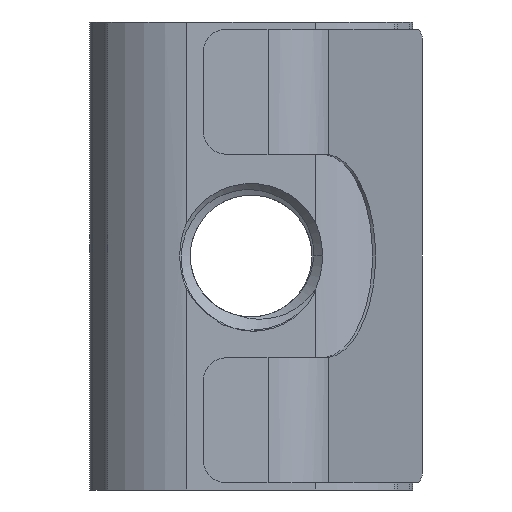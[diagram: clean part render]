
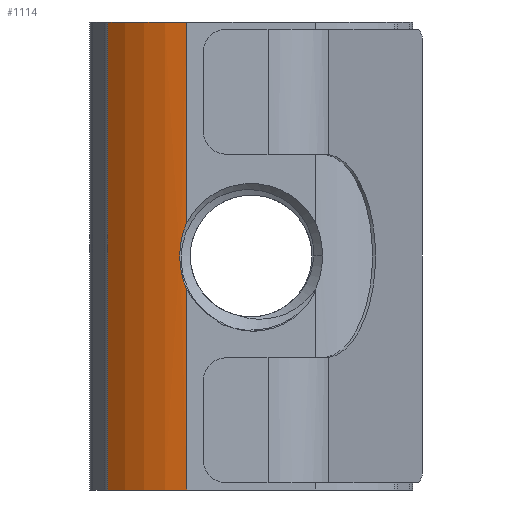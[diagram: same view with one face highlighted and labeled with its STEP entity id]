
A CAD part, front view. The second image highlights one B-rep face of the part: STEP entity #1114.
In plain terms, the highlighted cylindrical face has radius 5.6 mm (diameter 11.2 mm), a partial arc.
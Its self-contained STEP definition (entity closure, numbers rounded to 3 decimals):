
#210 = CARTESIAN_POINT ( 'NONE',  ( -3.054, -5.254, 0. ) ) ;
#289 = LINE ( 'NONE', #4368, #4391 ) ;
#322 = CARTESIAN_POINT ( 'NONE',  ( -2.853, -5.287, 1.206 ) ) ;
#373 = CIRCLE ( 'NONE', #3636, 5.6 ) ;
#426 = CARTESIAN_POINT ( 'NONE',  ( -2.75, -5.3, 10. ) ) ;
#450 = DIRECTION ( 'NONE',  ( 0., 0., 1. ) ) ;
#472 = EDGE_CURVE ( 'NONE', #2305, #2274, #1750, .T. ) ;
#719 = CARTESIAN_POINT ( 'NONE',  ( -6.124, -3.59, -10. ) ) ;
#722 = CARTESIAN_POINT ( 'NONE',  ( -3.054, -5.254, 0. ) ) ;
#757 = DIRECTION ( 'NONE',  ( -1., 0., 0. ) ) ;
#811 = CARTESIAN_POINT ( 'NONE',  ( -3.054, -5.254, 0.245 ) ) ;
#851 = LINE ( 'NONE', #426, #4641 ) ;
#1000 = DIRECTION ( 'NONE',  ( 0., 0., -1. ) ) ;
#1076 = LINE ( 'NONE', #3715, #1983 ) ;
#1114 = ADVANCED_FACE ( 'NONE', ( #1765 ), #3744, .T. ) ;
#1146 = EDGE_LOOP ( 'NONE', ( #2072, #4940, #3282, #1570, #2394, #1775, #3703 ) ) ;
#1154 = CARTESIAN_POINT ( 'NONE',  ( -2.75, -5.3, -1.431 ) ) ;
#1165 = CARTESIAN_POINT ( 'NONE',  ( -3.029, -5.258, 0.488 ) ) ;
#1185 = EDGE_CURVE ( 'NONE', #3777, #3202, #289, .T. ) ;
#1339 = B_SPLINE_CURVE_WITH_KNOTS ( 'NONE', 3,
 ( #1154, #5062, #3803, #2892, #2951, #4639 ),
 .UNSPECIFIED., .F., .F.,
 ( 4, 2, 4 ),
 ( 0., 0.001, 0.001 ),
 .UNSPECIFIED. ) ;
#1366 = CARTESIAN_POINT ( 'NONE',  ( -6.124, -3.59, 10. ) ) ;
#1380 = CARTESIAN_POINT ( 'NONE',  ( -2.75, -5.3, 1.431 ) ) ;
#1570 = ORIENTED_EDGE ( 'NONE', *, *, #1883, .F. ) ;
#1750 = B_SPLINE_CURVE_WITH_KNOTS ( 'NONE', 3,
 ( #722, #811, #1165, #5102, #322, #5037 ),
 .UNSPECIFIED., .F., .F.,
 ( 4, 2, 4 ),
 ( 0.001, 0.002, 0.003 ),
 .UNSPECIFIED. ) ;
#1765 = FACE_OUTER_BOUND ( 'NONE', #1146, .T. ) ;
#1775 = ORIENTED_EDGE ( 'NONE', *, *, #4577, .T. ) ;
#1834 = DIRECTION ( 'NONE',  ( 0., 0., 1. ) ) ;
#1883 = EDGE_CURVE ( 'NONE', #2430, #2274, #851, .T. ) ;
#1967 = CARTESIAN_POINT ( 'NONE',  ( -2.75, -5.3, 10. ) ) ;
#1983 = VECTOR ( 'NONE', #1000, 1000. ) ;
#2072 = ORIENTED_EDGE ( 'NONE', *, *, #1185, .F. ) ;
#2211 = DIRECTION ( 'NONE',  ( -1., 0., 0. ) ) ;
#2274 = VERTEX_POINT ( 'NONE', #1380 ) ;
#2305 = VERTEX_POINT ( 'NONE', #210 ) ;
#2394 = ORIENTED_EDGE ( 'NONE', *, *, #2590, .F. ) ;
#2430 = VERTEX_POINT ( 'NONE', #1967 ) ;
#2542 = CIRCLE ( 'NONE', #4431, 5.6 ) ;
#2553 = DIRECTION ( 'NONE',  ( 0., 0., -1. ) ) ;
#2588 = DIRECTION ( 'NONE',  ( 0., 0., -1. ) ) ;
#2590 = EDGE_CURVE ( 'NONE', #5049, #2430, #373, .T. ) ;
#2616 = DIRECTION ( 'NONE',  ( -1., 0., 0. ) ) ;
#2648 = DIRECTION ( 'NONE',  ( 0., 0., -1. ) ) ;
#2824 = EDGE_CURVE ( 'NONE', #3173, #3202, #2542, .T. ) ;
#2892 = CARTESIAN_POINT ( 'NONE',  ( -3.028, -5.258, -0.494 ) ) ;
#2951 = CARTESIAN_POINT ( 'NONE',  ( -3.054, -5.254, -0.245 ) ) ;
#3056 = CARTESIAN_POINT ( 'NONE',  ( -2.054, 0.257, -10. ) ) ;
#3173 = VERTEX_POINT ( 'NONE', #719 ) ;
#3202 = VERTEX_POINT ( 'NONE', #4068 ) ;
#3282 = ORIENTED_EDGE ( 'NONE', *, *, #472, .T. ) ;
#3320 = CARTESIAN_POINT ( 'NONE',  ( -2.054, 0.257, 10. ) ) ;
#3423 = CARTESIAN_POINT ( 'NONE',  ( -2.054, 0.257, 10. ) ) ;
#3636 = AXIS2_PLACEMENT_3D ( 'NONE', #3423, #450, #757 ) ;
#3703 = ORIENTED_EDGE ( 'NONE', *, *, #2824, .T. ) ;
#3715 = CARTESIAN_POINT ( 'NONE',  ( -6.124, -3.59, 10. ) ) ;
#3744 = CYLINDRICAL_SURFACE ( 'NONE', #3949, 5.6 ) ;
#3777 = VERTEX_POINT ( 'NONE', #4753 ) ;
#3803 = CARTESIAN_POINT ( 'NONE',  ( -2.927, -5.275, -0.973 ) ) ;
#3949 = AXIS2_PLACEMENT_3D ( 'NONE', #3320, #2588, #2616 ) ;
#4068 = CARTESIAN_POINT ( 'NONE',  ( -2.75, -5.3, -10. ) ) ;
#4368 = CARTESIAN_POINT ( 'NONE',  ( -2.75, -5.3, 10. ) ) ;
#4391 = VECTOR ( 'NONE', #2648, 1000. ) ;
#4431 = AXIS2_PLACEMENT_3D ( 'NONE', #3056, #1834, #2211 ) ;
#4577 = EDGE_CURVE ( 'NONE', #5049, #3173, #1076, .T. ) ;
#4639 = CARTESIAN_POINT ( 'NONE',  ( -3.054, -5.254, 0. ) ) ;
#4641 = VECTOR ( 'NONE', #2553, 1000. ) ;
#4753 = CARTESIAN_POINT ( 'NONE',  ( -2.75, -5.3, -1.431 ) ) ;
#4940 = ORIENTED_EDGE ( 'NONE', *, *, #4950, .T. ) ;
#4950 = EDGE_CURVE ( 'NONE', #3777, #2305, #1339, .T. ) ;
#5037 = CARTESIAN_POINT ( 'NONE',  ( -2.75, -5.3, 1.431 ) ) ;
#5049 = VERTEX_POINT ( 'NONE', #1366 ) ;
#5062 = CARTESIAN_POINT ( 'NONE',  ( -2.853, -5.287, -1.205 ) ) ;
#5102 = CARTESIAN_POINT ( 'NONE',  ( -2.928, -5.275, 0.971 ) ) ;
